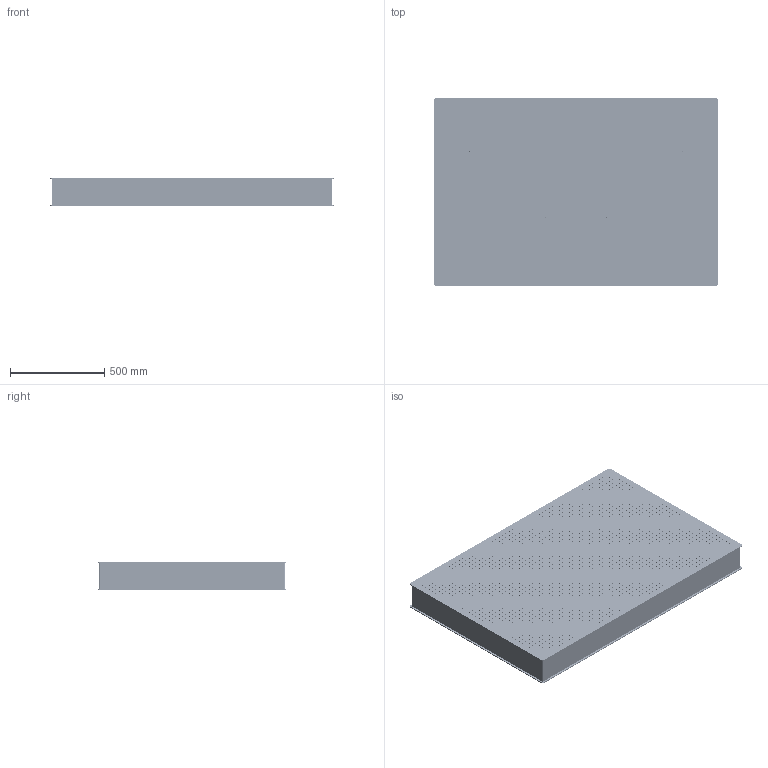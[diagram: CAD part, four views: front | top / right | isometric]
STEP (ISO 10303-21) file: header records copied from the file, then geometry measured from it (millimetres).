
FILE_DESCRIPTION (( 'STEP AP203' ), '1' );
FILE_NAME ('NTBH1015-150 怢醱(AP203).STEP', '2021-05-10T01:56:52', ( '8615811166815' ), ( '' ), 'SwSTEP 2.0', 'SolidWorks 2017', '' );
FILE_SCHEMA (( 'CONFIG_CONTROL_DESIGN' ));
Length unit declared in the file: millimetre
Products named in the file (1): NTBH1015-150 怢醱(AP203)
Bounding box: 1500 x 1000 x 150 mm (x, y, z)
Surface area: 6945983.4 mm2 (no closed solid volume)
Topology: 0 solids, 30 shells, 4456 faces, 13632 edges, 9208 vertices
Faces by surface type: cylinder 4396, plane 60
Entity records: 166850 total; most frequent: DIRECTION 31386, CARTESIAN_POINT 27297, ORIENTED_EDGE 26856, EDGE_CURVE 13632, AXIS2_PLACEMENT_3D 13297, VERTEX_POINT 9208, EDGE_LOOP 8864, CIRCLE 8840
